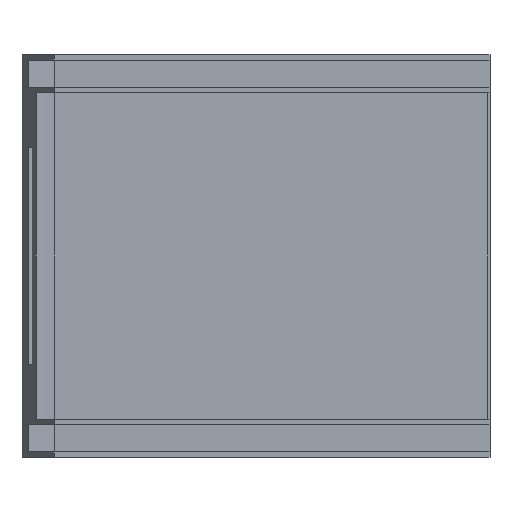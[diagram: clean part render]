
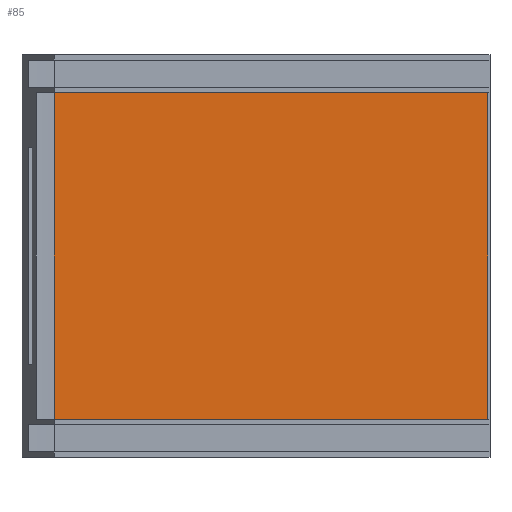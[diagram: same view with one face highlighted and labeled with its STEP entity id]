
A CAD part, left-side view. The second image highlights one B-rep face of the part: STEP entity #85.
In plain terms, the highlighted planar face has unit normal (-1, 0, 0).
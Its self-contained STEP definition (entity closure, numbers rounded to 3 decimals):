
#85=ADVANCED_FACE('',(#369),#371,.T.);
#369=FACE_BOUND('',#370,.T.);
#370=EDGE_LOOP('',(#604,#605,#606,#607));
#371=PLANE('',#372);
#372=AXIS2_PLACEMENT_3D('',#373,#374,#375);
#373=CARTESIAN_POINT('',(-2.5,80.,7.));
#374=DIRECTION('',(-1.,0.,0.));
#375=DIRECTION('',(0.,-1.,0.));
#604=ORIENTED_EDGE('',*,*,#780,.F.);
#605=ORIENTED_EDGE('',*,*,#774,.F.);
#606=ORIENTED_EDGE('',*,*,#781,.F.);
#607=ORIENTED_EDGE('',*,*,#776,.T.);
#774=EDGE_CURVE('',#885,#879,#887,.F.);
#776=EDGE_CURVE('',#891,#888,#892,.T.);
#780=EDGE_CURVE('',#879,#888,#898,.F.);
#781=EDGE_CURVE('',#891,#885,#899,.T.);
#879=VERTEX_POINT('',#1065);
#885=VERTEX_POINT('',#1077);
#887=LINE('',#1082,#1083);
#888=VERTEX_POINT('',#1085);
#891=VERTEX_POINT('',#1090);
#892=LINE('',#1091,#1092);
#898=LINE('',#1106,#1107);
#899=LINE('',#1109,#1110);
#1065=CARTESIAN_POINT('',(-2.5,0.4,67.));
#1077=CARTESIAN_POINT('',(-2.5,80.,67.));
#1082=CARTESIAN_POINT('',(-2.5,0.4,67.));
#1083=VECTOR('',#1084,1.);
#1084=DIRECTION('',(0.,1.,0.));
#1085=CARTESIAN_POINT('',(-2.5,0.4,7.));
#1090=CARTESIAN_POINT('',(-2.5,80.,7.));
#1091=CARTESIAN_POINT('',(-2.5,80.,7.));
#1092=VECTOR('',#1093,1.);
#1093=DIRECTION('',(0.,-1.,0.));
#1106=CARTESIAN_POINT('',(-2.5,0.4,7.));
#1107=VECTOR('',#1108,1.);
#1108=DIRECTION('',(0.,0.,1.));
#1109=CARTESIAN_POINT('',(-2.5,80.,7.));
#1110=VECTOR('',#1111,1.);
#1111=DIRECTION('',(0.,0.,1.));
